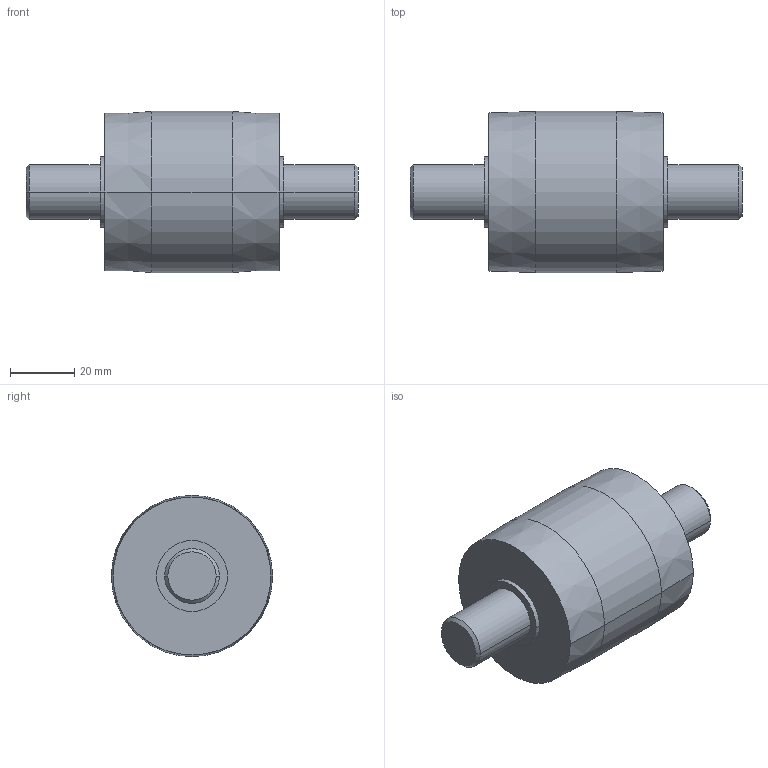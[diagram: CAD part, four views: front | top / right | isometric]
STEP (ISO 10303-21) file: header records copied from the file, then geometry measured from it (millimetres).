
FILE_DESCRIPTION (( 'STEP AP203' ), '1' );
FILE_NAME ('084.815.125.STEP', '2013-01-29T13:02:18', ( 'Alusic' ), ( 'Alusic' ), 'SwSTEP 2.0', 'SolidWorks 2011', '' );
FILE_SCHEMA (( 'CONFIG_CONTROL_DESIGN' ));
Length unit declared in the file: millimetre
Products named in the file (1): 084.815.125
Bounding box: 103 x 50 x 50 mm (x, y, z)
Volume: 116427.7 mm3; surface area: 14809.8 mm2
Topology: 1 solids, 1 shells, 24 faces, 46 edges, 28 vertices
Faces by surface type: cylinder 10, cone 8, plane 6
Entity records: 691 total; most frequent: DIRECTION 124, CARTESIAN_POINT 99, ORIENTED_EDGE 92, AXIS2_PLACEMENT_3D 53, EDGE_CURVE 46, CIRCLE 28, EDGE_LOOP 28, VERTEX_POINT 28
